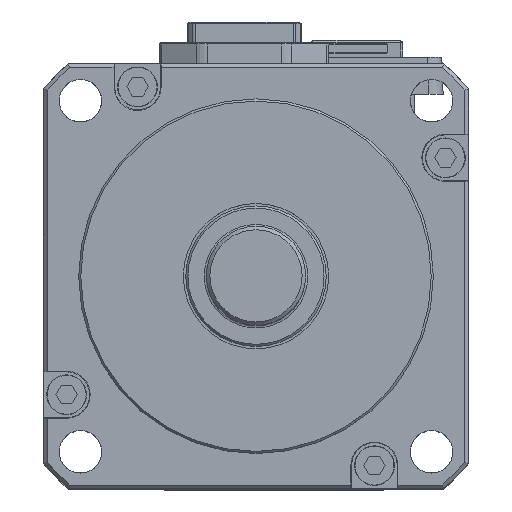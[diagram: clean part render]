
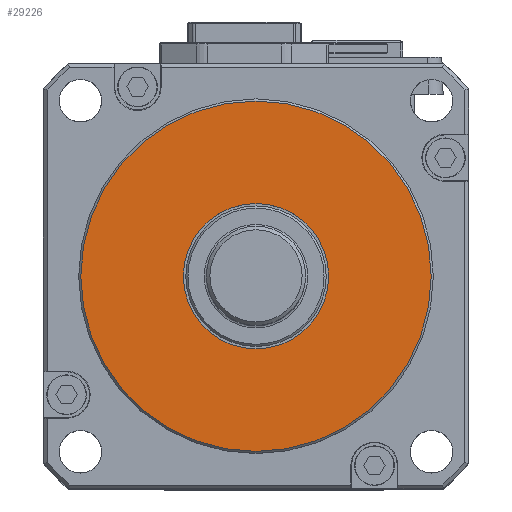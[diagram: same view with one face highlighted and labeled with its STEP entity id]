
A CAD part, top view. The second image highlights one B-rep face of the part: STEP entity #29226.
In plain terms, the highlighted planar face has unit normal (0, 0, 1).
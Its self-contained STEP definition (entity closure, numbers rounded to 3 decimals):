
#5408 = ORIENTED_EDGE ( 'NONE', *, *, #40990, .T. ) ;
#9260 = VERTEX_POINT ( 'NONE', #36037 ) ;
#9351 = AXIS2_PLACEMENT_3D ( 'NONE', #10409, #47338, #68446 ) ;
#10409 = CARTESIAN_POINT ( 'NONE',  ( 0., 0., 10. ) ) ;
#16644 = CARTESIAN_POINT ( 'NONE',  ( 0., 0., 10. ) ) ;
#18348 = CIRCLE ( 'NONE', #9351, 24.7 ) ;
#26498 = DIRECTION ( 'NONE',  ( 0., 0., 1. ) ) ;
#26816 = DIRECTION ( 'NONE',  ( 1., 0., 0. ) ) ;
#29226 = ADVANCED_FACE ( 'NONE', ( #43012, #43359 ), #47918, .T. ) ;
#36037 = CARTESIAN_POINT ( 'NONE',  ( 24.7, 0., 10. ) ) ;
#40990 = EDGE_CURVE ( 'NONE', #9260, #9260, #18348, .T. ) ;
#41997 = AXIS2_PLACEMENT_3D ( 'NONE', #59733, #52725, #53749 ) ;
#43012 = FACE_OUTER_BOUND ( 'NONE', #55130, .T. ) ;
#43022 = AXIS2_PLACEMENT_3D ( 'NONE', #16644, #26498, #26816 ) ;
#43359 = FACE_BOUND ( 'NONE', #61757, .T. ) ;
#45749 = CARTESIAN_POINT ( 'NONE',  ( 10.25, 0., 10. ) ) ;
#46461 = CIRCLE ( 'NONE', #41997, 10.25 ) ;
#47338 = DIRECTION ( 'NONE',  ( 0., 0., 1. ) ) ;
#47918 = PLANE ( 'NONE',  #43022 ) ;
#50324 = VERTEX_POINT ( 'NONE', #45749 ) ;
#52725 = DIRECTION ( 'NONE',  ( 0., 0., 1. ) ) ;
#53749 = DIRECTION ( 'NONE',  ( 1., 0., 0. ) ) ;
#55130 = EDGE_LOOP ( 'NONE', ( #5408 ) ) ;
#56140 = ORIENTED_EDGE ( 'NONE', *, *, #63113, .F. ) ;
#59733 = CARTESIAN_POINT ( 'NONE',  ( 0., 0., 10. ) ) ;
#61757 = EDGE_LOOP ( 'NONE', ( #56140 ) ) ;
#63113 = EDGE_CURVE ( 'NONE', #50324, #50324, #46461, .T. ) ;
#68446 = DIRECTION ( 'NONE',  ( 1., 0., 0. ) ) ;
